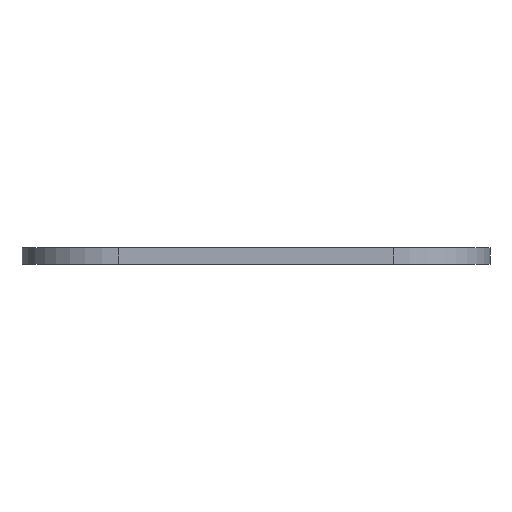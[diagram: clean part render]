
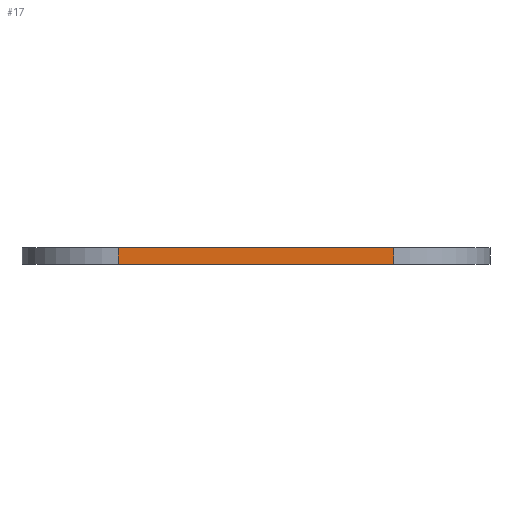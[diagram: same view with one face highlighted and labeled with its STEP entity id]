
A CAD part, left-side view. The second image highlights one B-rep face of the part: STEP entity #17.
In plain terms, the highlighted planar face has unit normal (-1, 0, 0).
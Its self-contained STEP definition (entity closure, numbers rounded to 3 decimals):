
#17 = ADVANCED_FACE('',(#18),#32,.F.);
#18 = FACE_BOUND('',#19,.F.);
#19 = EDGE_LOOP('',(#20,#55,#83,#111));
#20 = ORIENTED_EDGE('',*,*,#21,.F.);
#21 = EDGE_CURVE('',#22,#24,#26,.T.);
#22 = VERTEX_POINT('',#23);
#23 = CARTESIAN_POINT('',(-14.1,-54.8,14.));
#24 = VERTEX_POINT('',#25);
#25 = CARTESIAN_POINT('',(-14.1,-38.2,14.));
#26 = SURFACE_CURVE('',#27,(#31,#43),.PCURVE_S1.);
#27 = LINE('',#28,#29);
#28 = CARTESIAN_POINT('',(-14.1,-60.6,14.));
#29 = VECTOR('',#30,1.);
#30 = DIRECTION('',(0.,1.,0.));
#31 = PCURVE('',#32,#37);
#32 = PLANE('',#33);
#33 = AXIS2_PLACEMENT_3D('',#34,#35,#36);
#34 = CARTESIAN_POINT('',(-14.1,-60.6,13.));
#35 = DIRECTION('',(1.,0.,0.));
#36 = DIRECTION('',(0.,0.,1.));
#37 = DEFINITIONAL_REPRESENTATION('',(#38),#42);
#38 = LINE('',#39,#40);
#39 = CARTESIAN_POINT('',(1.,0.));
#40 = VECTOR('',#41,1.);
#41 = DIRECTION('',(0.,-1.));
#42 = ( GEOMETRIC_REPRESENTATION_CONTEXT(2) 
PARAMETRIC_REPRESENTATION_CONTEXT() REPRESENTATION_CONTEXT('2D SPACE',''
  ) );
#43 = PCURVE('',#44,#49);
#44 = PLANE('',#45);
#45 = AXIS2_PLACEMENT_3D('',#46,#47,#48);
#46 = CARTESIAN_POINT('',(-14.1,-60.6,14.));
#47 = DIRECTION('',(0.,0.,1.));
#48 = DIRECTION('',(1.,0.,0.));
#49 = DEFINITIONAL_REPRESENTATION('',(#50),#54);
#50 = LINE('',#51,#52);
#51 = CARTESIAN_POINT('',(0.,0.));
#52 = VECTOR('',#53,1.);
#53 = DIRECTION('',(0.,1.));
#54 = ( GEOMETRIC_REPRESENTATION_CONTEXT(2) 
PARAMETRIC_REPRESENTATION_CONTEXT() REPRESENTATION_CONTEXT('2D SPACE',''
  ) );
#55 = ORIENTED_EDGE('',*,*,#56,.F.);
#56 = EDGE_CURVE('',#57,#22,#59,.T.);
#57 = VERTEX_POINT('',#58);
#58 = CARTESIAN_POINT('',(-14.1,-54.8,13.));
#59 = SURFACE_CURVE('',#60,(#64,#71),.PCURVE_S1.);
#60 = LINE('',#61,#62);
#61 = CARTESIAN_POINT('',(-14.1,-54.8,13.));
#62 = VECTOR('',#63,1.);
#63 = DIRECTION('',(0.,0.,1.));
#64 = PCURVE('',#32,#65);
#65 = DEFINITIONAL_REPRESENTATION('',(#66),#70);
#66 = LINE('',#67,#68);
#67 = CARTESIAN_POINT('',(0.,-5.8));
#68 = VECTOR('',#69,1.);
#69 = DIRECTION('',(1.,0.));
#70 = ( GEOMETRIC_REPRESENTATION_CONTEXT(2) 
PARAMETRIC_REPRESENTATION_CONTEXT() REPRESENTATION_CONTEXT('2D SPACE',''
  ) );
#71 = PCURVE('',#72,#77);
#72 = CYLINDRICAL_SURFACE('',#73,5.8);
#73 = AXIS2_PLACEMENT_3D('',#74,#75,#76);
#74 = CARTESIAN_POINT('',(-8.3,-54.8,13.));
#75 = DIRECTION('',(0.,0.,1.));
#76 = DIRECTION('',(-1.,-0.,0.));
#77 = DEFINITIONAL_REPRESENTATION('',(#78),#82);
#78 = LINE('',#79,#80);
#79 = CARTESIAN_POINT('',(0.,0.));
#80 = VECTOR('',#81,1.);
#81 = DIRECTION('',(0.,1.));
#82 = ( GEOMETRIC_REPRESENTATION_CONTEXT(2) 
PARAMETRIC_REPRESENTATION_CONTEXT() REPRESENTATION_CONTEXT('2D SPACE',''
  ) );
#83 = ORIENTED_EDGE('',*,*,#84,.T.);
#84 = EDGE_CURVE('',#57,#85,#87,.T.);
#85 = VERTEX_POINT('',#86);
#86 = CARTESIAN_POINT('',(-14.1,-38.2,13.));
#87 = SURFACE_CURVE('',#88,(#92,#99),.PCURVE_S1.);
#88 = LINE('',#89,#90);
#89 = CARTESIAN_POINT('',(-14.1,-60.6,13.));
#90 = VECTOR('',#91,1.);
#91 = DIRECTION('',(0.,1.,0.));
#92 = PCURVE('',#32,#93);
#93 = DEFINITIONAL_REPRESENTATION('',(#94),#98);
#94 = LINE('',#95,#96);
#95 = CARTESIAN_POINT('',(0.,0.));
#96 = VECTOR('',#97,1.);
#97 = DIRECTION('',(0.,-1.));
#98 = ( GEOMETRIC_REPRESENTATION_CONTEXT(2) 
PARAMETRIC_REPRESENTATION_CONTEXT() REPRESENTATION_CONTEXT('2D SPACE',''
  ) );
#99 = PCURVE('',#100,#105);
#100 = PLANE('',#101);
#101 = AXIS2_PLACEMENT_3D('',#102,#103,#104);
#102 = CARTESIAN_POINT('',(-14.1,-60.6,13.));
#103 = DIRECTION('',(0.,0.,1.));
#104 = DIRECTION('',(1.,0.,0.));
#105 = DEFINITIONAL_REPRESENTATION('',(#106),#110);
#106 = LINE('',#107,#108);
#107 = CARTESIAN_POINT('',(0.,0.));
#108 = VECTOR('',#109,1.);
#109 = DIRECTION('',(0.,1.));
#110 = ( GEOMETRIC_REPRESENTATION_CONTEXT(2) 
PARAMETRIC_REPRESENTATION_CONTEXT() REPRESENTATION_CONTEXT('2D SPACE',''
  ) );
#111 = ORIENTED_EDGE('',*,*,#112,.T.);
#112 = EDGE_CURVE('',#85,#24,#113,.T.);
#113 = SURFACE_CURVE('',#114,(#118,#125),.PCURVE_S1.);
#114 = LINE('',#115,#116);
#115 = CARTESIAN_POINT('',(-14.1,-38.2,13.));
#116 = VECTOR('',#117,1.);
#117 = DIRECTION('',(0.,0.,1.));
#118 = PCURVE('',#32,#119);
#119 = DEFINITIONAL_REPRESENTATION('',(#120),#124);
#120 = LINE('',#121,#122);
#121 = CARTESIAN_POINT('',(0.,-22.4));
#122 = VECTOR('',#123,1.);
#123 = DIRECTION('',(1.,0.));
#124 = ( GEOMETRIC_REPRESENTATION_CONTEXT(2) 
PARAMETRIC_REPRESENTATION_CONTEXT() REPRESENTATION_CONTEXT('2D SPACE',''
  ) );
#125 = PCURVE('',#126,#131);
#126 = CYLINDRICAL_SURFACE('',#127,5.8);
#127 = AXIS2_PLACEMENT_3D('',#128,#129,#130);
#128 = CARTESIAN_POINT('',(-8.3,-38.2,13.));
#129 = DIRECTION('',(0.,0.,1.));
#130 = DIRECTION('',(-1.,-0.,0.));
#131 = DEFINITIONAL_REPRESENTATION('',(#132),#136);
#132 = LINE('',#133,#134);
#133 = CARTESIAN_POINT('',(-0.,0.));
#134 = VECTOR('',#135,1.);
#135 = DIRECTION('',(-0.,1.));
#136 = ( GEOMETRIC_REPRESENTATION_CONTEXT(2) 
PARAMETRIC_REPRESENTATION_CONTEXT() REPRESENTATION_CONTEXT('2D SPACE',''
  ) );
